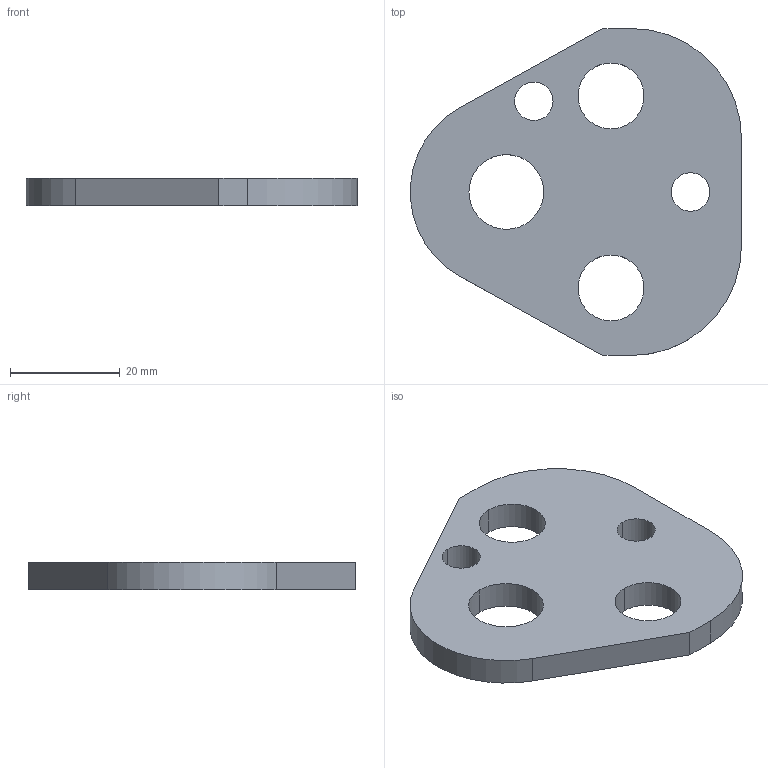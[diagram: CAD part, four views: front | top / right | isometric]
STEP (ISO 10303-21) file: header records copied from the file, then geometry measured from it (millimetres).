
FILE_DESCRIPTION(/* description */ (''),/* implementation_level */ '2;1');
FILE_NAME(/* name */ '3d_crnbd20_03630_r00.stp',/* time_stamp */ '2011-01-10T14:16:19+09:00',/* author */ ('MISUMI'),/* organization */ (''),/* preprocessor_version */ 'ST-DEVELOPER v11',/* originating_system */ 'UGS - NX 5.0',/* authorisation */ '');
FILE_SCHEMA (('CONFIG_CONTROL_DESIGN'));
Length unit declared in the file: millimetre
Products named in the file (1): 3d_crnbd20_03630_r00
Bounding box: 60.24 x 59.5 x 5 mm (x, y, z)
Volume: 11255.5 mm3; surface area: 6260.9 mm2
Topology: 1 solids, 1 shells, 20 faces, 54 edges, 36 vertices
Faces by surface type: cylinder 13, plane 7
Entity records: 750 total; most frequent: DIRECTION 122, CARTESIAN_POINT 111, ORIENTED_EDGE 108, EDGE_CURVE 54, AXIS2_PLACEMENT_3D 47, VERTEX_POINT 36, EDGE_LOOP 30, LINE 28
